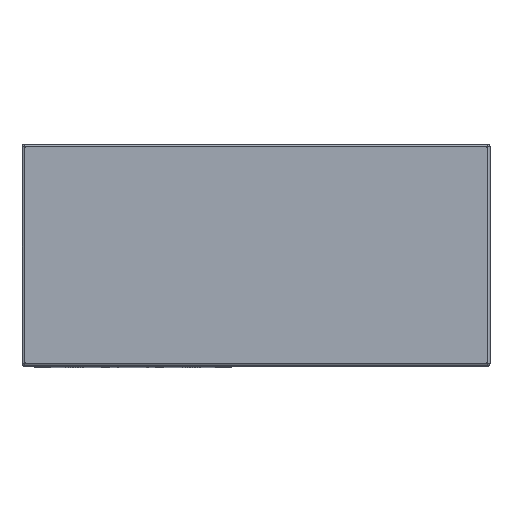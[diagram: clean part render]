
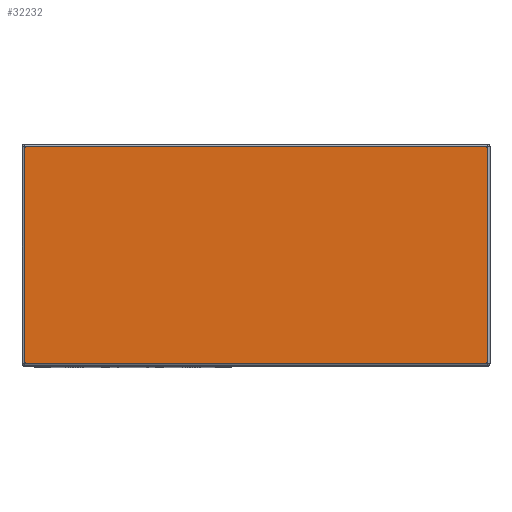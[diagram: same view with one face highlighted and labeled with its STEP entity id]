
A CAD part, top view. The second image highlights one B-rep face of the part: STEP entity #32232.
In plain terms, the highlighted planar face has unit normal (0, 0, 1).
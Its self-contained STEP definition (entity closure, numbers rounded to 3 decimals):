
#129 = VERTEX_POINT ( 'NONE', #29066 ) ;
#1282 = LINE ( 'NONE', #30762, #15295 ) ;
#1797 = VECTOR ( 'NONE', #19392, 1000. ) ;
#4326 = FACE_OUTER_BOUND ( 'NONE', #15370, .T. ) ;
#4961 = PLANE ( 'NONE',  #8371 ) ;
#5487 = LINE ( 'NONE', #11271, #32575 ) ;
#8371 = AXIS2_PLACEMENT_3D ( 'NONE', #28548, #12917, #31215 ) ;
#9211 = VECTOR ( 'NONE', #27287, 1000. ) ;
#9605 = LINE ( 'NONE', #32418, #1797 ) ;
#11271 = CARTESIAN_POINT ( 'NONE',  ( -44., -45., 421. ) ) ;
#11612 = VERTEX_POINT ( 'NONE', #33807 ) ;
#12373 = ORIENTED_EDGE ( 'NONE', *, *, #19088, .T. ) ;
#12917 = DIRECTION ( 'NONE',  ( 0., 0., 1. ) ) ;
#13797 = DIRECTION ( 'NONE',  ( 0., -1., 0. ) ) ;
#14968 = CARTESIAN_POINT ( 'NONE',  ( -44., -44., 421. ) ) ;
#15295 = VECTOR ( 'NONE', #20360, 1000. ) ;
#15370 = EDGE_LOOP ( 'NONE', ( #12373, #17805, #15967, #21215 ) ) ;
#15967 = ORIENTED_EDGE ( 'NONE', *, *, #29669, .T. ) ;
#16218 = LINE ( 'NONE', #32483, #9211 ) ;
#17805 = ORIENTED_EDGE ( 'NONE', *, *, #24976, .T. ) ;
#17910 = EDGE_CURVE ( 'NONE', #32495, #32435, #5487, .T. ) ;
#19088 = EDGE_CURVE ( 'NONE', #32435, #129, #16218, .T. ) ;
#19392 = DIRECTION ( 'NONE',  ( -1., 0., 0. ) ) ;
#20360 = DIRECTION ( 'NONE',  ( 0., 1., 0. ) ) ;
#21215 = ORIENTED_EDGE ( 'NONE', *, *, #17910, .T. ) ;
#24976 = EDGE_CURVE ( 'NONE', #129, #11612, #1282, .T. ) ;
#27287 = DIRECTION ( 'NONE',  ( 1., 0., 0. ) ) ;
#28277 = CARTESIAN_POINT ( 'NONE',  ( -44., 44., 421. ) ) ;
#28548 = CARTESIAN_POINT ( 'NONE',  ( 0., 0., 421. ) ) ;
#29066 = CARTESIAN_POINT ( 'NONE',  ( 144., -44., 421. ) ) ;
#29669 = EDGE_CURVE ( 'NONE', #11612, #32495, #9605, .T. ) ;
#30762 = CARTESIAN_POINT ( 'NONE',  ( 144., 45., 421. ) ) ;
#31215 = DIRECTION ( 'NONE',  ( 1., 0., 0. ) ) ;
#32232 = ADVANCED_FACE ( 'NONE', ( #4326 ), #4961, .T. ) ;
#32418 = CARTESIAN_POINT ( 'NONE',  ( -45., 44., 421. ) ) ;
#32435 = VERTEX_POINT ( 'NONE', #14968 ) ;
#32483 = CARTESIAN_POINT ( 'NONE',  ( 145., -44., 421. ) ) ;
#32495 = VERTEX_POINT ( 'NONE', #28277 ) ;
#32575 = VECTOR ( 'NONE', #13797, 1000. ) ;
#33807 = CARTESIAN_POINT ( 'NONE',  ( 144., 44., 421. ) ) ;
